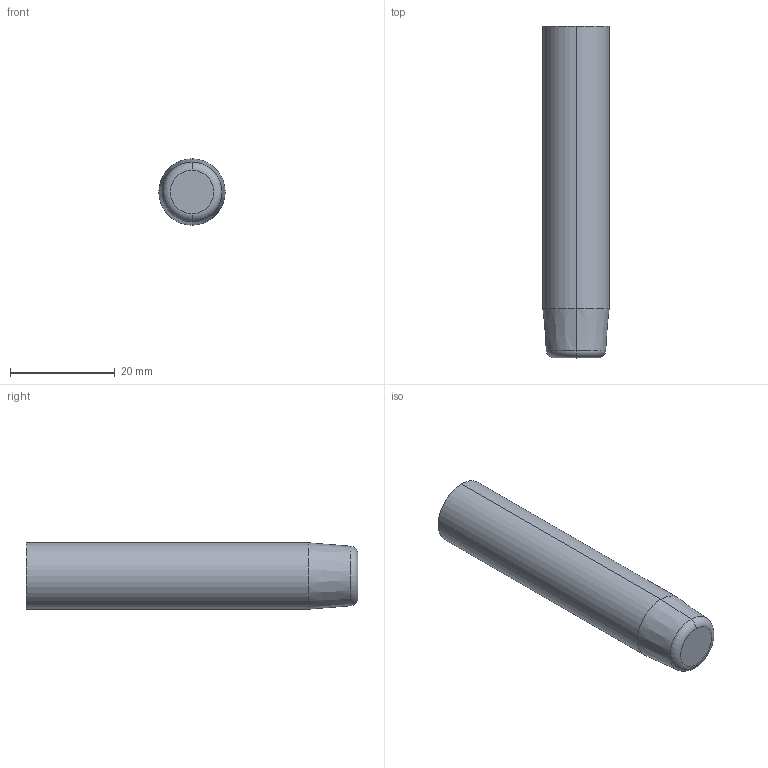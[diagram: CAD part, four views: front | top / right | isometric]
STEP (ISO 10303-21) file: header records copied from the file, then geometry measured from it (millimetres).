
FILE_DESCRIPTION (( 'STEP AP203' ), '1' );
FILE_NAME ('269-18-402.STEP', '2020-03-02T20:27:01', ( '' ), ( '' ), 'SwSTEP 2.0', 'SolidWorks 2017', '' );
FILE_SCHEMA (( 'CONFIG_CONTROL_DESIGN' ));
Length unit declared in the file: inch
Products named in the file (1): 269-18-402
Bounding box: 12.7 x 63.5 x 12.7 mm (x, y, z)
Volume: 6913.1 mm3; surface area: 3274.2 mm2
Topology: 1 solids, 1 shells, 12 faces, 24 edges, 13 vertices
Faces by surface type: cone 4, cylinder 4, torus 2, plane 2
Entity records: 379 total; most frequent: DIRECTION 62, CARTESIAN_POINT 48, ORIENTED_EDGE 44, AXIS2_PLACEMENT_3D 27, EDGE_CURVE 22, CIRCLE 14, EDGE_LOOP 13, VERTEX_POINT 13
